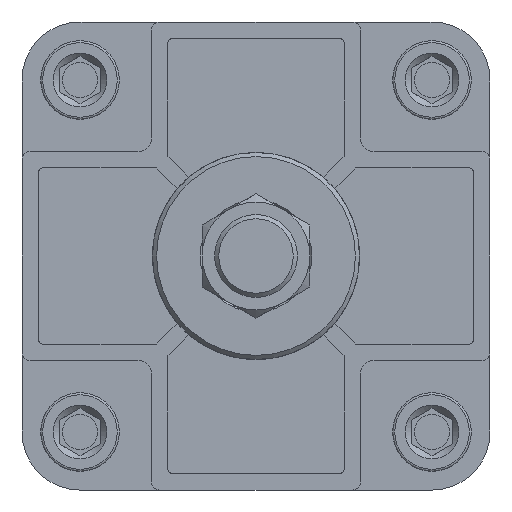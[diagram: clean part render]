
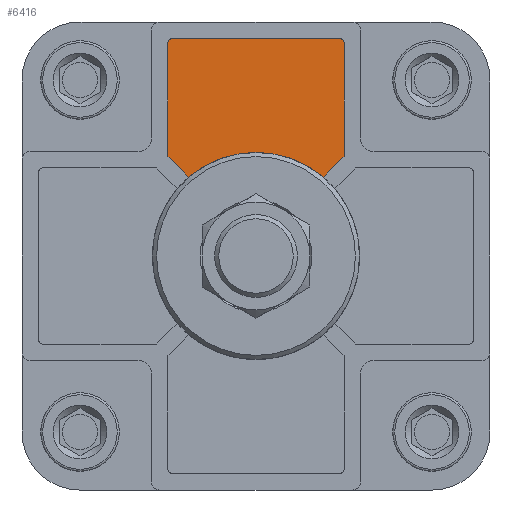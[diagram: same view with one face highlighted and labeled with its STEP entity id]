
A CAD part, front view. The second image highlights one B-rep face of the part: STEP entity #6416.
In plain terms, the highlighted planar face has unit normal (0, -1, 0).
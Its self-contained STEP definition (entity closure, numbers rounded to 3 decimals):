
#238=LINE('',#8823,#646);
#239=LINE('',#8828,#647);
#240=LINE('',#8832,#648);
#241=LINE('',#8834,#649);
#242=LINE('',#8838,#650);
#646=VECTOR('',#7334,1000.);
#647=VECTOR('',#7337,1000.);
#648=VECTOR('',#7340,1000.);
#649=VECTOR('',#7341,1000.);
#650=VECTOR('',#7344,1000.);
#1073=ORIENTED_EDGE('',*,*,#2408,.F.);
#1074=ORIENTED_EDGE('',*,*,#2409,.T.);
#1075=ORIENTED_EDGE('',*,*,#2410,.F.);
#1076=ORIENTED_EDGE('',*,*,#2411,.T.);
#1077=ORIENTED_EDGE('',*,*,#2412,.F.);
#1078=ORIENTED_EDGE('',*,*,#2413,.F.);
#1079=ORIENTED_EDGE('',*,*,#2414,.F.);
#1080=ORIENTED_EDGE('',*,*,#2415,.F.);
#2408=EDGE_CURVE('',#3078,#3079,#238,.T.);
#2409=EDGE_CURVE('',#3078,#3080,#3532,.F.);
#2410=EDGE_CURVE('',#3081,#3080,#239,.T.);
#2411=EDGE_CURVE('',#3081,#3082,#3533,.F.);
#2412=EDGE_CURVE('',#3083,#3082,#240,.T.);
#2413=EDGE_CURVE('',#3084,#3083,#241,.T.);
#2414=EDGE_CURVE('',#3085,#3084,#3534,.F.);
#2415=EDGE_CURVE('',#3079,#3085,#242,.T.);
#3078=VERTEX_POINT('',#8824);
#3079=VERTEX_POINT('',#8825);
#3080=VERTEX_POINT('',#8827);
#3081=VERTEX_POINT('',#8829);
#3082=VERTEX_POINT('',#8831);
#3083=VERTEX_POINT('',#8833);
#3084=VERTEX_POINT('',#8835);
#3085=VERTEX_POINT('',#8837);
#3532=CIRCLE('',#6754,1.);
#3533=CIRCLE('',#6755,1.);
#3534=CIRCLE('',#6756,25.);
#3766=EDGE_LOOP('',(#1073,#1074,#1075,#1076,#1077,#1078,#1079,#1080));
#4170=FACE_BOUND('',#3766,.T.);
#4564=PLANE('',#6753);
#6416=ADVANCED_FACE('',(#4170),#4564,.F.);
#6753=AXIS2_PLACEMENT_3D('',#8822,#7332,#7333);
#6754=AXIS2_PLACEMENT_3D('',#8826,#7335,#7336);
#6755=AXIS2_PLACEMENT_3D('',#8830,#7338,#7339);
#6756=AXIS2_PLACEMENT_3D('',#8836,#7342,#7343);
#7332=DIRECTION('',(0.,1.,0.));
#7333=DIRECTION('',(0.,0.,1.));
#7334=DIRECTION('',(0.,0.,-1.));
#7335=DIRECTION('',(0.,1.,0.));
#7336=DIRECTION('',(0.,0.,1.));
#7337=DIRECTION('',(1.,0.,0.));
#7338=DIRECTION('',(0.,1.,0.));
#7339=DIRECTION('',(0.,0.,1.));
#7340=DIRECTION('',(0.,0.,1.));
#7341=DIRECTION('',(-0.707,0.,0.707));
#7342=DIRECTION('',(0.,1.,0.));
#7343=DIRECTION('',(0.,0.,1.));
#7344=DIRECTION('',(-0.707,0.,-0.707));
#8822=CARTESIAN_POINT('',(0.,-27.5,0.));
#8823=CARTESIAN_POINT('',(21.25,-27.5,25.25));
#8824=CARTESIAN_POINT('',(21.25,-27.5,51.5));
#8825=CARTESIAN_POINT('',(21.25,-27.5,24.078));
#8826=CARTESIAN_POINT('',(20.25,-27.5,51.5));
#8827=CARTESIAN_POINT('',(20.25,-27.5,52.5));
#8828=CARTESIAN_POINT('',(21.25,-27.5,52.5));
#8829=CARTESIAN_POINT('',(-20.25,-27.5,52.5));
#8830=CARTESIAN_POINT('',(-20.25,-27.5,51.5));
#8831=CARTESIAN_POINT('',(-21.25,-27.5,51.5));
#8832=CARTESIAN_POINT('',(-21.25,-27.5,52.5));
#8833=CARTESIAN_POINT('',(-21.25,-27.5,24.078));
#8834=CARTESIAN_POINT('',(-15.852,-27.5,18.681));
#8835=CARTESIAN_POINT('',(-16.207,-27.5,19.035));
#8836=CARTESIAN_POINT('',(0.,-27.5,0.));
#8837=CARTESIAN_POINT('',(16.207,-27.5,19.035));
#8838=CARTESIAN_POINT('',(15.852,-27.5,18.681));
